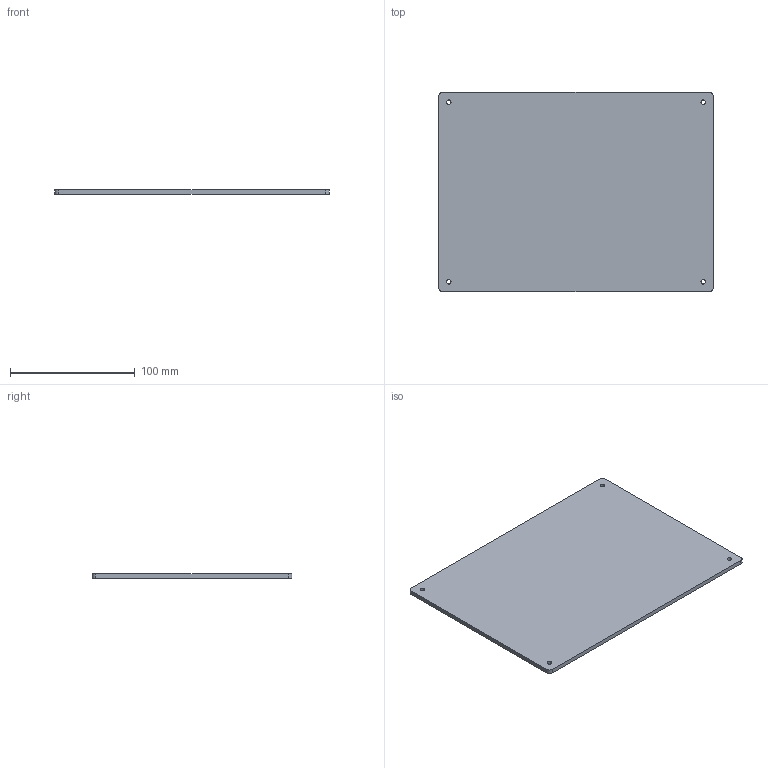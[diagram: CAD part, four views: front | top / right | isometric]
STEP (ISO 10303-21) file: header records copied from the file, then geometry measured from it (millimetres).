
FILE_DESCRIPTION(('Open CASCADE Model'),'2;1');
FILE_NAME('Open CASCADE Shape Model','2026-10-04T14:57:16',('Author'),( 'Open CASCADE'),'Open CASCADE STEP processor 7.8','Open CASCADE 7.8' ,'Unknown');
FILE_SCHEMA(('AUTOMOTIVE_DESIGN { 1 0 10303 214 1 1 1 1 }'));
Length unit declared in the file: millimetre
Products named in the file (1): Open CASCADE STEP translator 7.8 2
Bounding box: 220 x 160 x 3.5 mm (x, y, z)
Volume: 123030.5 mm3; surface area: 73103.4 mm2
Topology: 1 solids, 1 shells, 14 faces, 36 edges, 24 vertices
Faces by surface type: cylinder 8, plane 6
Full cylindrical faces by diameter (mm): 3.6 x4
Entity records: 942 total; most frequent: CARTESIAN_POINT 171, DIRECTION 150, LINE 76, VECTOR 76, ORIENTED_EDGE 72, PCURVE 72, DEFINITIONAL_REPRESENTATION 72, EDGE_CURVE 36
